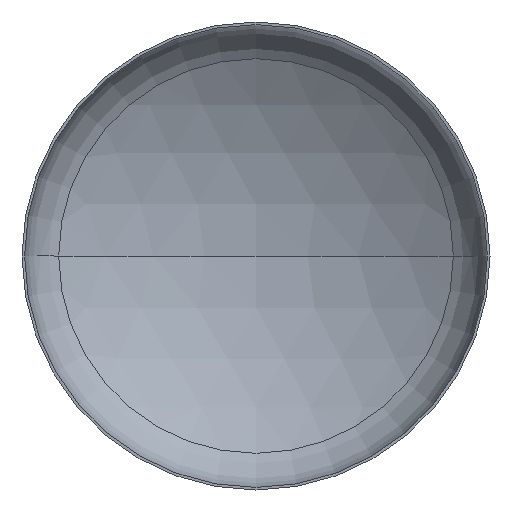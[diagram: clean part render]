
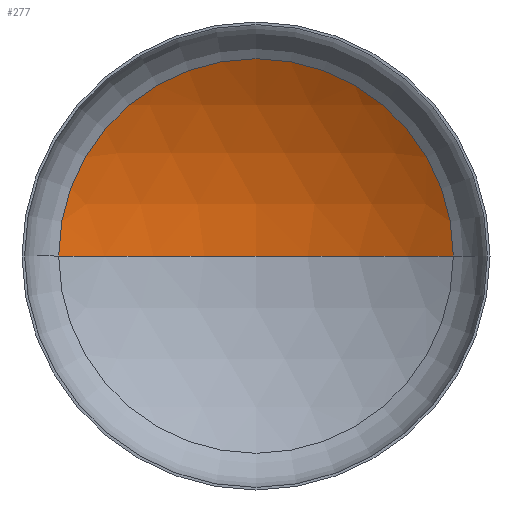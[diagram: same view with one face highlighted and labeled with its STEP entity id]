
A CAD part, front view. The second image highlights one B-rep face of the part: STEP entity #277.
In plain terms, the highlighted spherical face has radius 6000 mm.
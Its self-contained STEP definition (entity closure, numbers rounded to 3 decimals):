
#20 = VERTEX_POINT ( 'NONE', #281 ) ;
#28 = AXIS2_PLACEMENT_3D ( 'NONE', #59, #381, #98 ) ;
#59 = CARTESIAN_POINT ( 'NONE',  ( 0., -3987.793, 0. ) ) ;
#65 = AXIS2_PLACEMENT_3D ( 'NONE', #188, #185, #183 ) ;
#68 = AXIS2_PLACEMENT_3D ( 'NONE', #215, #217, #207 ) ;
#73 = AXIS2_PLACEMENT_3D ( 'NONE', #199, #295, #294 ) ;
#86 = VERTEX_POINT ( 'NONE', #239 ) ;
#88 = VERTEX_POINT ( 'NONE', #276 ) ;
#98 = DIRECTION ( 'NONE',  ( -1., 0., 0. ) ) ;
#130 = EDGE_CURVE ( 'NONE', #88, #20, #246, .T. ) ;
#131 = EDGE_CURVE ( 'NONE', #86, #88, #179, .T. ) ;
#134 = EDGE_CURVE ( 'NONE', #86, #20, #293, .T. ) ;
#135 = ORIENTED_EDGE ( 'NONE', *, *, #130, .T. ) ;
#152 = ORIENTED_EDGE ( 'NONE', *, *, #131, .T. ) ;
#156 = EDGE_LOOP ( 'NONE', ( #206, #152, #135 ) ) ;
#179 = CIRCLE ( 'NONE', #68, 6000. ) ;
#183 = DIRECTION ( 'NONE',  ( 1., 0., 0. ) ) ;
#185 = DIRECTION ( 'NONE',  ( 0., 0., 1. ) ) ;
#188 = CARTESIAN_POINT ( 'NONE',  ( 0., -3987.793, 0. ) ) ;
#199 = CARTESIAN_POINT ( 'NONE',  ( 0., 1111.641, 0. ) ) ;
#206 = ORIENTED_EDGE ( 'NONE', *, *, #134, .F. ) ;
#207 = DIRECTION ( 'NONE',  ( -1., 0., 0. ) ) ;
#215 = CARTESIAN_POINT ( 'NONE',  ( 0., -3987.793, 0. ) ) ;
#217 = DIRECTION ( 'NONE',  ( 0., 0., -1. ) ) ;
#225 = FACE_OUTER_BOUND ( 'NONE', #156, .T. ) ;
#239 = CARTESIAN_POINT ( 'NONE',  ( 0., 2012.207, 0. ) ) ;
#246 = CIRCLE ( 'NONE', #73, 3161.61 ) ;
#276 = CARTESIAN_POINT ( 'NONE',  ( 3161.61, 1111.641, 0. ) ) ;
#277 = ADVANCED_FACE ( 'NONE', ( #225 ), #390, .F. ) ;
#281 = CARTESIAN_POINT ( 'NONE',  ( -3161.61, 1111.641, 0. ) ) ;
#293 = CIRCLE ( 'NONE', #65, 6000. ) ;
#294 = DIRECTION ( 'NONE',  ( 1., 0., 0. ) ) ;
#295 = DIRECTION ( 'NONE',  ( 0., -1., 0. ) ) ;
#381 = DIRECTION ( 'NONE',  ( 0., 0., -1. ) ) ;
#390 = SPHERICAL_SURFACE ( 'NONE', #28, 6000. ) ;
